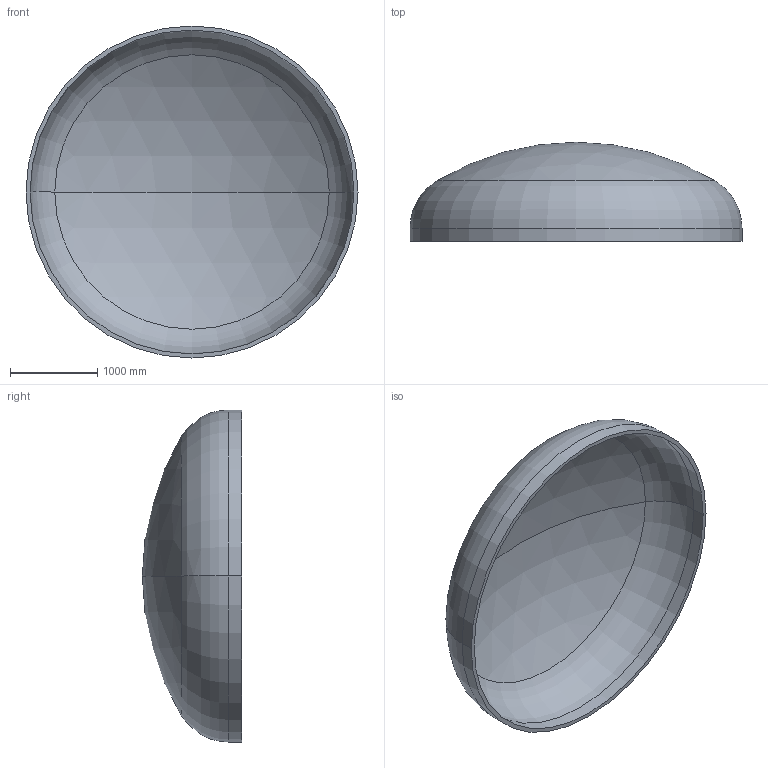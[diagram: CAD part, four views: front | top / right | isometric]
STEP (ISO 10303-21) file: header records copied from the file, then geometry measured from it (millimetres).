
FILE_DESCRIPTION (( 'STEP AP203' ), '1' );
FILE_NAME ('DIN 28013 Korbbogenform_-_Boden DIN 28013 - 3800 x 150 - I - s=47.step', '2016-07-01T21:27:38', ( '' ), ( '' ), 'SwSTEP 2.0', 'SolidWorks 2013', '' );
FILE_SCHEMA (( 'CONFIG_CONTROL_DESIGN' ));
Length unit declared in the file: millimetre
Products named in the file (1): DIN 28013 Korbbogenform_-_Boden DIN 28013 - 3800 x 150 - I - s=47
Bounding box: 3800 x 1134.81 x 3800 mm (x, y, z)
Volume: 809344717.6 mm3; surface area: 34998963.7 mm2
Topology: 1 solids, 1 shells, 13 faces, 24 edges, 14 vertices
Faces by surface type: torus 4, cylinder 4, sphere 4, plane 1
Entity records: 407 total; most frequent: DIRECTION 72, CARTESIAN_POINT 52, ORIENTED_EDGE 48, AXIS2_PLACEMENT_3D 34, EDGE_CURVE 24, CIRCLE 20, EDGE_LOOP 14, VERTEX_POINT 14
